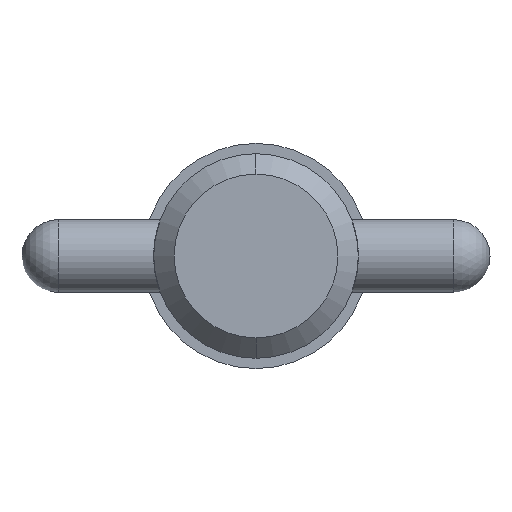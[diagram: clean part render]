
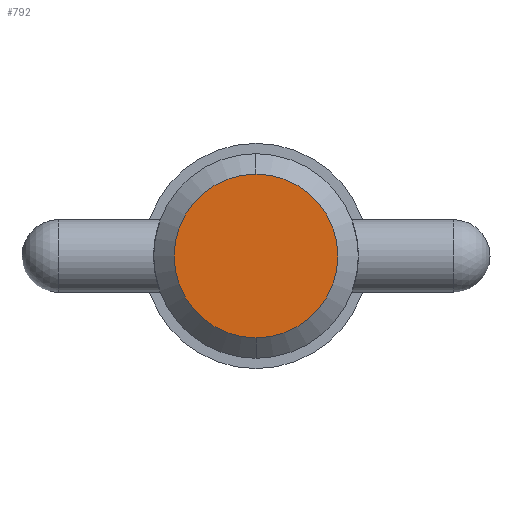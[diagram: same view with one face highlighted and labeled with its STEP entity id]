
A CAD part, left-side view. The second image highlights one B-rep face of the part: STEP entity #792.
In plain terms, the highlighted planar face has unit normal (-1, 0, 0).
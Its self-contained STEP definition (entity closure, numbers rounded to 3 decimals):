
#45 = DIRECTION ( 'NONE',  ( -1., 0., 0. ) ) ;
#79 = CARTESIAN_POINT ( 'NONE',  ( 0., 0., 0. ) ) ;
#106 = DIRECTION ( 'NONE',  ( 0., 0., -1. ) ) ;
#112 = CARTESIAN_POINT ( 'NONE',  ( 0., 0., -4.444 ) ) ;
#209 = PLANE ( 'NONE',  #634 ) ;
#263 = DIRECTION ( 'NONE',  ( 1., 0., 0. ) ) ;
#264 = EDGE_CURVE ( 'NONE', #320, #467, #400, .T. ) ;
#320 = VERTEX_POINT ( 'NONE', #789 ) ;
#328 = DIRECTION ( 'NONE',  ( 1., 0., 0. ) ) ;
#339 = AXIS2_PLACEMENT_3D ( 'NONE', #79, #328, #629 ) ;
#344 = CARTESIAN_POINT ( 'NONE',  ( 0., 0., 0. ) ) ;
#352 = CARTESIAN_POINT ( 'NONE',  ( 0., 0., 0. ) ) ;
#367 = DIRECTION ( 'NONE',  ( 0., 0., 1. ) ) ;
#400 = CIRCLE ( 'NONE', #339, 4.444 ) ;
#467 = VERTEX_POINT ( 'NONE', #112 ) ;
#629 = DIRECTION ( 'NONE',  ( 0., 0., -1. ) ) ;
#633 = EDGE_CURVE ( 'NONE', #467, #320, #993, .T. ) ;
#634 = AXIS2_PLACEMENT_3D ( 'NONE', #352, #45, #367 ) ;
#665 = AXIS2_PLACEMENT_3D ( 'NONE', #344, #263, #106 ) ;
#745 = EDGE_LOOP ( 'NONE', ( #925, #965 ) ) ;
#789 = CARTESIAN_POINT ( 'NONE',  ( 0., 0., 4.444 ) ) ;
#792 = ADVANCED_FACE ( 'NONE', ( #854 ), #209, .T. ) ;
#854 = FACE_OUTER_BOUND ( 'NONE', #745, .T. ) ;
#925 = ORIENTED_EDGE ( 'NONE', *, *, #633, .F. ) ;
#965 = ORIENTED_EDGE ( 'NONE', *, *, #264, .F. ) ;
#993 = CIRCLE ( 'NONE', #665, 4.444 ) ;
